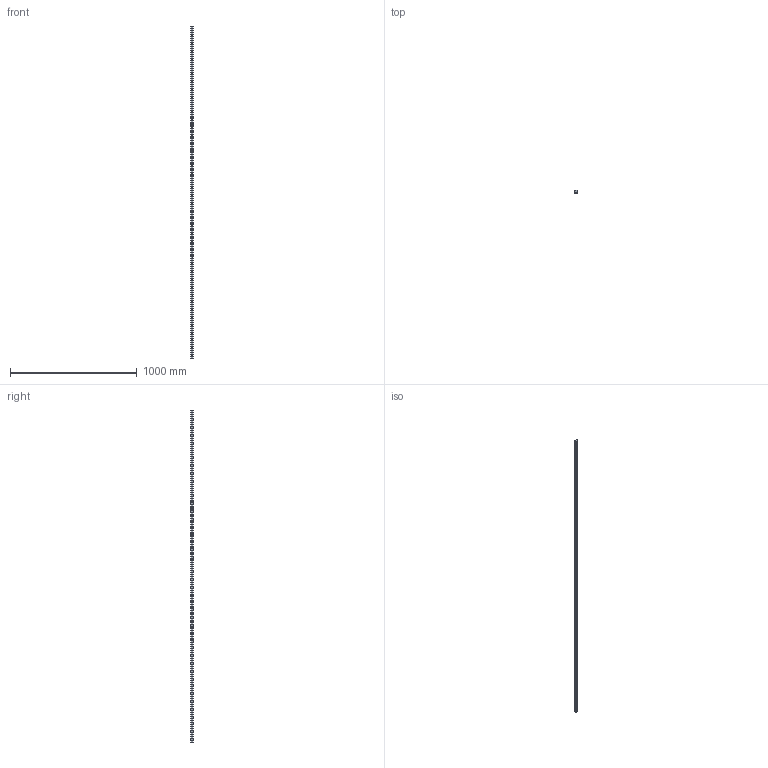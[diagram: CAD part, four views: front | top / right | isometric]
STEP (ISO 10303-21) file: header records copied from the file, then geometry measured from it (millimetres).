
FILE_DESCRIPTION (( 'STEP AP203' ), '1' );
FILE_NAME ('L1016.BRF25-2620.step', '2019-06-13T08:43:08', ( '' ), ( '' ), 'SwSTEP 2.0', 'SolidWorks 2017', '' );
FILE_SCHEMA (( 'CONFIG_CONTROL_DESIGN' ));
Length unit declared in the file: millimetre
Products named in the file (1): L1016.BRF25-2620
Bounding box: 23 x 19.2 x 2620 mm (x, y, z)
Volume: 1000311.4 mm3; surface area: 241201.7 mm2
Topology: 1 solids, 1 shells, 334 faces, 776 edges, 444 vertices
Faces by surface type: cylinder 180, cone 88, plane 66
Entity records: 8997 total; most frequent: DIRECTION 1718, CARTESIAN_POINT 1467, ORIENTED_EDGE 1376, AXIS2_PLACEMENT_3D 695, EDGE_CURVE 688, VERTEX_POINT 444, EDGE_LOOP 422, CIRCLE 360
